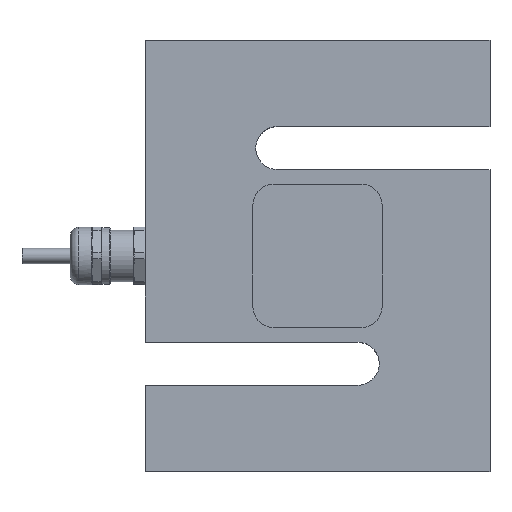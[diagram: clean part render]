
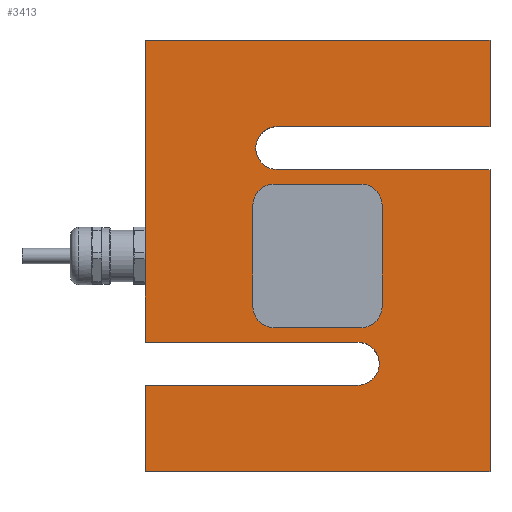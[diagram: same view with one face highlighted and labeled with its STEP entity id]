
A CAD part, top view. The second image highlights one B-rep face of the part: STEP entity #3413.
In plain terms, the highlighted planar face has unit normal (0, 0, 1).
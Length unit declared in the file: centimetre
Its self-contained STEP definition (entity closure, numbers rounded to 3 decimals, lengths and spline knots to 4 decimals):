
#764=VECTOR('',#3993,1.);
#770=VECTOR('',#4006,1.);
#774=VECTOR('',#4017,1.);
#777=VECTOR('',#4027,1.);
#782=VECTOR('',#4047,1.);
#788=VECTOR('',#4068,1.);
#789=VECTOR('',#4072,1.);
#794=VECTOR('',#4078,1.);
#796=VECTOR('',#4081,1.);
#797=VECTOR('',#4082,1.);
#798=VECTOR('',#4083,1.);
#799=VECTOR('',#4084,1.);
#968=LINE('',#4814,#764);
#974=LINE('',#4830,#770);
#978=LINE('',#4842,#774);
#981=LINE('',#4851,#777);
#986=LINE('',#4872,#782);
#992=LINE('',#4895,#788);
#993=LINE('',#4899,#789);
#998=LINE('',#4909,#794);
#1000=LINE('',#4914,#796);
#1001=LINE('',#4916,#797);
#1002=LINE('',#4918,#798);
#1003=LINE('',#4920,#799);
#1265=VERTEX_POINT('',#4809);
#1266=VERTEX_POINT('',#4811);
#1267=VERTEX_POINT('',#4815);
#1271=VERTEX_POINT('',#4824);
#1272=VERTEX_POINT('',#4826);
#1275=VERTEX_POINT('',#4836);
#1276=VERTEX_POINT('',#4838);
#1278=VERTEX_POINT('',#4847);
#1283=VERTEX_POINT('',#4867);
#1285=VERTEX_POINT('',#4871);
#1288=VERTEX_POINT('',#4879);
#1291=VERTEX_POINT('',#4886);
#1292=VERTEX_POINT('',#4888);
#1294=VERTEX_POINT('',#4894);
#1296=VERTEX_POINT('',#4900);
#1299=VERTEX_POINT('',#4908);
#1300=VERTEX_POINT('',#4910);
#1302=VERTEX_POINT('',#4915);
#1303=VERTEX_POINT('',#4917);
#1304=VERTEX_POINT('',#4919);
#1540=CIRCLE('',#3593,0.75);
#1542=CIRCLE('',#3597,0.75);
#1544=CIRCLE('',#3601,0.75);
#1546=CIRCLE('',#3605,0.75);
#1552=CIRCLE('',#3619,0.75);
#1554=CIRCLE('',#3622,0.75);
#1714=EDGE_CURVE('',#1265,#1266,#1540,.T.);
#1716=EDGE_CURVE('',#1267,#1266,#968,.T.);
#1721=EDGE_CURVE('',#1271,#1272,#1542,.T.);
#1724=EDGE_CURVE('',#1265,#1272,#974,.T.);
#1727=EDGE_CURVE('',#1275,#1276,#1544,.T.);
#1730=EDGE_CURVE('',#1271,#1276,#978,.T.);
#1732=EDGE_CURVE('',#1267,#1278,#1546,.T.);
#1735=EDGE_CURVE('',#1275,#1278,#981,.T.);
#1743=EDGE_CURVE('',#1283,#1285,#986,.T.);
#1746=EDGE_CURVE('',#1283,#1288,#1552,.T.);
#1750=EDGE_CURVE('',#1291,#1292,#1554,.T.);
#1754=EDGE_CURVE('',#1291,#1294,#992,.T.);
#1756=EDGE_CURVE('',#1296,#1288,#993,.T.);
#1761=EDGE_CURVE('',#1299,#1285,#998,.T.);
#1762=EDGE_CURVE('',#1296,#1300,#998,.T.);
#1765=EDGE_CURVE('',#1302,#1299,#1000,.T.);
#1766=EDGE_CURVE('',#1303,#1302,#1001,.T.);
#1767=EDGE_CURVE('',#1303,#1292,#1002,.T.);
#1768=EDGE_CURVE('',#1304,#1294,#1001,.T.);
#1769=EDGE_CURVE('',#1300,#1304,#1003,.T.);
#2217=ORIENTED_EDGE('',*,*,#1716,.T.);
#2218=ORIENTED_EDGE('',*,*,#1714,.F.);
#2219=ORIENTED_EDGE('',*,*,#1724,.T.);
#2220=ORIENTED_EDGE('',*,*,#1721,.F.);
#2221=ORIENTED_EDGE('',*,*,#1730,.T.);
#2222=ORIENTED_EDGE('',*,*,#1727,.F.);
#2223=ORIENTED_EDGE('',*,*,#1735,.T.);
#2224=ORIENTED_EDGE('',*,*,#1732,.F.);
#2225=ORIENTED_EDGE('',*,*,#1756,.T.);
#2226=ORIENTED_EDGE('',*,*,#1746,.F.);
#2227=ORIENTED_EDGE('',*,*,#1743,.T.);
#2228=ORIENTED_EDGE('',*,*,#1761,.F.);
#2229=ORIENTED_EDGE('',*,*,#1765,.F.);
#2230=ORIENTED_EDGE('',*,*,#1766,.F.);
#2231=ORIENTED_EDGE('',*,*,#1767,.T.);
#2232=ORIENTED_EDGE('',*,*,#1750,.F.);
#2233=ORIENTED_EDGE('',*,*,#1754,.T.);
#2234=ORIENTED_EDGE('',*,*,#1768,.F.);
#2235=ORIENTED_EDGE('',*,*,#1769,.F.);
#2236=ORIENTED_EDGE('',*,*,#1762,.F.);
#2946=EDGE_LOOP('',(#2217,#2218,#2219,#2220,#2221,#2222,#2223,#2224));
#2947=EDGE_LOOP('',(#2225,#2226,#2227,#2228,#2229,#2230,#2231,#2232,#2233,
#2234,#2235,#2236));
#3184=FACE_BOUND('',#2946,.T.);
#3185=FACE_BOUND('',#2947,.T.);
#3413=ADVANCED_FACE('',(#3184,#3185),#5864,.T.);
#3593=AXIS2_PLACEMENT_3D('',#4810,#3989,#3990);
#3597=AXIS2_PLACEMENT_3D('',#4825,#4001,#4002);
#3601=AXIS2_PLACEMENT_3D('',#4837,#4012,#4013);
#3605=AXIS2_PLACEMENT_3D('',#4846,#4022,#4023);
#3619=AXIS2_PLACEMENT_3D('',#4878,#4054,#4055);
#3622=AXIS2_PLACEMENT_3D('',#4887,#4062,#4063);
#3627=AXIS2_PLACEMENT_3D('',#4913,#4080,$);
#3989=DIRECTION('',(0.,0.,1.));
#3990=DIRECTION('',(0.53,0.53,0.));
#3993=DIRECTION('',(1.,0.,0.));
#4001=DIRECTION('',(0.,0.,1.));
#4002=DIRECTION('',(0.53,-0.53,0.));
#4006=DIRECTION('',(0.,-1.,0.));
#4012=DIRECTION('',(0.,0.,1.));
#4013=DIRECTION('',(-0.53,-0.53,0.));
#4017=DIRECTION('',(-1.,0.,0.));
#4022=DIRECTION('',(0.,0.,1.));
#4023=DIRECTION('',(-0.53,0.53,0.));
#4027=DIRECTION('',(0.,1.,0.));
#4047=DIRECTION('',(-1.,0.,0.));
#4054=DIRECTION('',(0.,0.,1.));
#4055=DIRECTION('',(0.53,0.53,0.));
#4062=DIRECTION('',(0.,0.,1.));
#4063=DIRECTION('',(-0.53,0.53,0.));
#4068=DIRECTION('',(1.,0.,0.));
#4072=DIRECTION('',(1.,0.,0.));
#4078=DIRECTION('',(0.,1.,0.));
#4080=DIRECTION('',(0.,0.,1.));
#4081=DIRECTION('',(-1.,0.,0.));
#4082=DIRECTION('',(0.,-1.,0.));
#4083=DIRECTION('',(-1.,0.,0.));
#4084=DIRECTION('',(1.,0.,0.));
#4809=CARTESIAN_POINT('',(2.25,1.75,2.25));
#4810=CARTESIAN_POINT('',(1.5,1.75,2.25));
#4811=CARTESIAN_POINT('',(1.5,2.5,2.25));
#4814=CARTESIAN_POINT('',(0.,2.5,2.25));
#4815=CARTESIAN_POINT('',(-1.5,2.5,2.25));
#4824=CARTESIAN_POINT('',(1.5,-2.5,2.25));
#4825=CARTESIAN_POINT('',(1.5,-1.75,2.25));
#4826=CARTESIAN_POINT('',(2.25,-1.75,2.25));
#4830=CARTESIAN_POINT('',(2.25,0.,2.25));
#4836=CARTESIAN_POINT('',(-2.25,-1.75,2.25));
#4837=CARTESIAN_POINT('',(-1.5,-1.75,2.25));
#4838=CARTESIAN_POINT('',(-1.5,-2.5,2.25));
#4842=CARTESIAN_POINT('',(0.,-2.5,2.25));
#4846=CARTESIAN_POINT('',(-1.5,1.75,2.25));
#4847=CARTESIAN_POINT('',(-2.25,1.75,2.25));
#4851=CARTESIAN_POINT('',(-2.25,0.,2.25));
#4867=CARTESIAN_POINT('',(1.4,-4.5,2.25));
#4871=CARTESIAN_POINT('',(-6.,-4.5,2.25));
#4872=CARTESIAN_POINT('',(-0.9625,-4.5,2.25));
#4878=CARTESIAN_POINT('',(1.4,-3.75,2.25));
#4879=CARTESIAN_POINT('',(1.4,-3.,2.25));
#4886=CARTESIAN_POINT('',(-1.4,4.5,2.25));
#4887=CARTESIAN_POINT('',(-1.4,3.75,2.25));
#4888=CARTESIAN_POINT('',(-1.4,3.,2.25));
#4894=CARTESIAN_POINT('',(6.,4.5,2.25));
#4895=CARTESIAN_POINT('',(0.9625,4.5,2.25));
#4899=CARTESIAN_POINT('',(-0.9625,-3.,2.25));
#4900=CARTESIAN_POINT('',(-6.,-3.,2.25));
#4908=CARTESIAN_POINT('',(-6.,-7.5,2.25));
#4909=CARTESIAN_POINT('',(-6.,7.5,2.25));
#4910=CARTESIAN_POINT('',(-6.,7.5,2.25));
#4913=CARTESIAN_POINT('',(0.,0.,2.25));
#4914=CARTESIAN_POINT('',(-6.,-7.5,2.25));
#4915=CARTESIAN_POINT('',(6.,-7.5,2.25));
#4916=CARTESIAN_POINT('',(6.,-7.5,2.25));
#4917=CARTESIAN_POINT('',(6.,3.,2.25));
#4918=CARTESIAN_POINT('',(0.9625,3.,2.25));
#4919=CARTESIAN_POINT('',(6.,7.5,2.25));
#4920=CARTESIAN_POINT('',(6.,7.5,2.25));
#5864=PLANE('',#3627);
